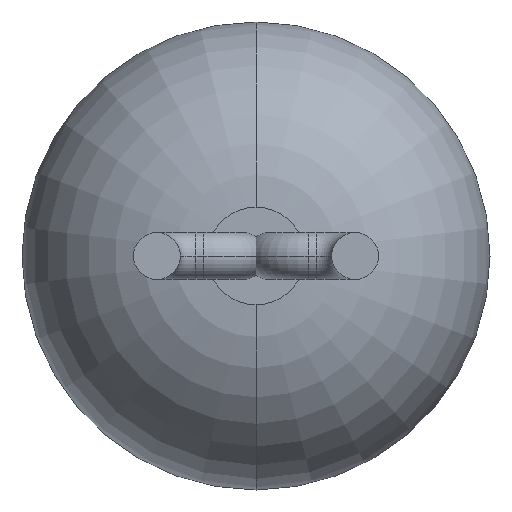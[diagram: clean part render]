
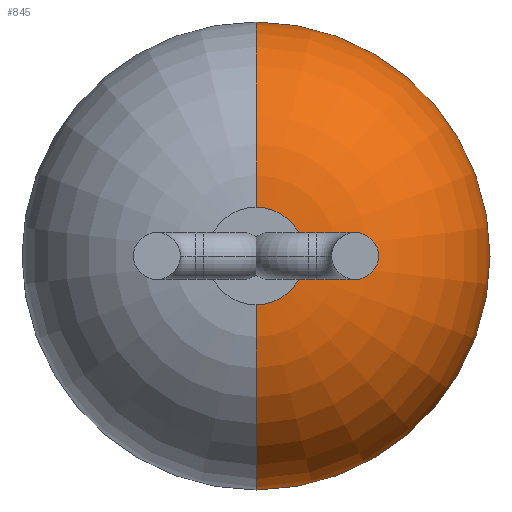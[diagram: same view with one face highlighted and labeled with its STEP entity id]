
A CAD part, front view. The second image highlights one B-rep face of the part: STEP entity #845.
In plain terms, the highlighted toroidal (fillet/blend) face has major radius 0.625 mm and minor radius 2.375 mm.
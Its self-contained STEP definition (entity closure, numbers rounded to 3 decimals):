
#781 = CARTESIAN_POINT ( 'NONE',  ( 0., 5.375, 3. ) ) ;
#782 = VERTEX_POINT ( 'NONE', #781 ) ;
#789 = CARTESIAN_POINT ( 'NONE',  ( 0., 5.375, -3. ) ) ;
#790 = VERTEX_POINT ( 'NONE', #789 ) ;
#791 = CARTESIAN_POINT ( 'NONE',  ( 0., 5.375, 0. ) ) ;
#792 = DIRECTION ( 'NONE',  ( 0., -1., 0. ) ) ;
#793 = DIRECTION ( 'NONE',  ( 0., 0., -1. ) ) ;
#794 = AXIS2_PLACEMENT_3D ( 'NONE', #791, #792, #793 ) ;
#795 = CIRCLE ( 'NONE', #794, 3.0) ;
#796 = EDGE_CURVE ( 'NONE', #790, #782, #795, .T. ) ;
#812 = ORIENTED_EDGE ( 'NONE', *, *, #796, .T. ) ;
#813 = CARTESIAN_POINT ( 'NONE',  ( 0., 3., 0.625 ) ) ;
#814 = VERTEX_POINT ( 'NONE', #813 ) ;
#815 = CARTESIAN_POINT ( 'NONE',  ( 0., 5.375, 0.625 ) ) ;
#816 = DIRECTION ( 'NONE',  ( 1., 0., 0. ) ) ;
#817 = DIRECTION ( 'NONE',  ( 0., 0., -1. ) ) ;
#818 = AXIS2_PLACEMENT_3D ( 'NONE', #815, #816, #817 ) ;
#819 = CIRCLE ( 'NONE', #818, 2.375) ;
#820 = EDGE_CURVE ( 'NONE', #782, #814, #819, .T. ) ;
#821 = ORIENTED_EDGE ( 'NONE', *, *, #820, .T. ) ;
#822 = CARTESIAN_POINT ( 'NONE',  ( 0., 3., -0.625 ) ) ;
#823 = VERTEX_POINT ( 'NONE', #822 ) ;
#824 = CARTESIAN_POINT ( 'NONE',  ( 0., 3., 0. ) ) ;
#825 = DIRECTION ( 'NONE',  ( 0., -1., 0. ) ) ;
#826 = DIRECTION ( 'NONE',  ( 0., 0., -1. ) ) ;
#827 = AXIS2_PLACEMENT_3D ( 'NONE', #824, #825, #826 ) ;
#828 = CIRCLE ( 'NONE', #827, 0.625) ;
#829 = EDGE_CURVE ( 'NONE', #823, #814, #828, .T. ) ;
#830 = ORIENTED_EDGE ( 'NONE', *, *, #829, .F. ) ;
#831 = CARTESIAN_POINT ( 'NONE',  ( 0., 5.375, -0.625 ) ) ;
#832 = DIRECTION ( 'NONE',  ( -1., 0., 0. ) ) ;
#833 = DIRECTION ( 'NONE',  ( 0., 0., 1. ) ) ;
#834 = AXIS2_PLACEMENT_3D ( 'NONE', #831, #832, #833 ) ;
#835 = CIRCLE ( 'NONE', #834, 2.375) ;
#836 = EDGE_CURVE ( 'NONE', #790, #823, #835, .T. ) ;
#837 = ORIENTED_EDGE ( 'NONE', *, *, #836, .F. ) ;
#838 = EDGE_LOOP ( 'NONE', ( #812, #821, #830, #837 ) ) ;
#839 = FACE_OUTER_BOUND ( 'NONE', #838, .T. ) ;
#840 = CARTESIAN_POINT ( 'NONE',  ( 0., 5.375, 0. ) ) ;
#841 = DIRECTION ( 'NONE',  ( 0., -1., 0. ) ) ;
#842 = DIRECTION ( 'NONE',  ( 0., 0., -1. ) ) ;
#843 = AXIS2_PLACEMENT_3D ( 'NONE', #840, #841, #842 ) ;
#844 = TOROIDAL_SURFACE ( 'NONE', #843, 0.625, 2.375 ) ;
#845 = ADVANCED_FACE ( 'NONE', ( #839 ), #844, .T. ) ;
